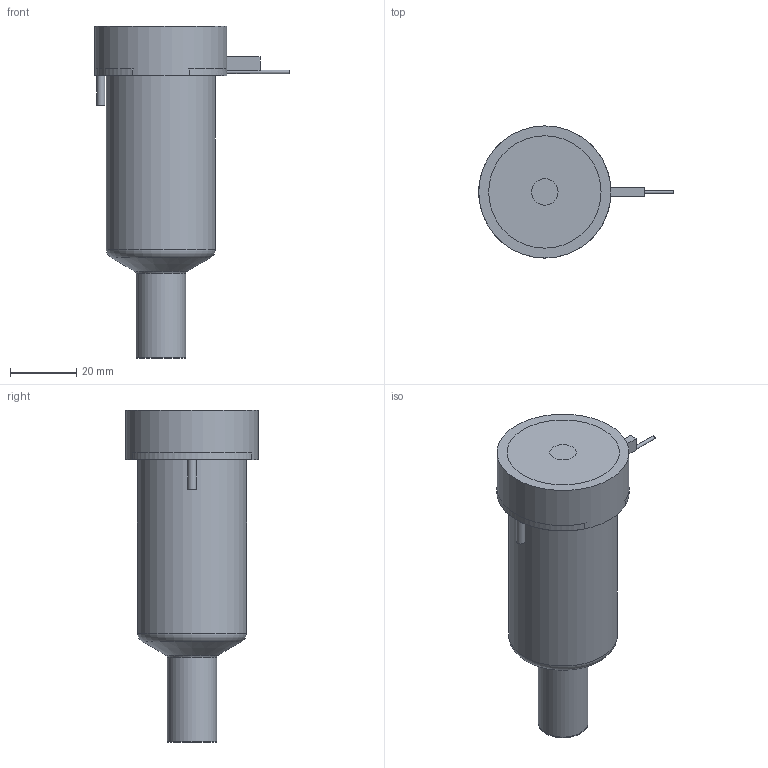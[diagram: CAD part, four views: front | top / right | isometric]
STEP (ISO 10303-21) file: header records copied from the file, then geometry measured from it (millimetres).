
FILE_DESCRIPTION(/* description */ (''),/* implementation_level */ '2;1');
FILE_NAME(/* name */ 'BXYCN19065P4F_200C_a',/* time_stamp */ '2016-02-18T16:24:49+13:00',/* author */ (''),/* organization */ (''),/* preprocessor_version */ 'ST-DEVELOPER v9',/* originating_system */ 'UGS - NX 4.0',/* authorisation */ '');
FILE_SCHEMA (('CONFIG_CONTROL_DESIGN'));
Length unit declared in the file: millimetre
Products named in the file (1): matt5E57pz60
Bounding box: 58.85 x 40 x 100.44 mm (x, y, z)
Volume: 127354.1 mm3; surface area: 23178.9 mm2
Topology: 2 solids, 2 shells, 66 faces, 148 edges, 96 vertices
Faces by surface type: plane 31, cylinder 21, torus 7, cone 5, bspline 1, sphere 1
Full cylindrical faces by diameter (mm): 1 x2, 2.5 x2, 7 x1, 8 x1, 14.61 x1, 14.995 x2, 18.3 x1, 28.6 x1, 33 x1, 40 x1
Entity records: 1929 total; most frequent: CARTESIAN_POINT 483, DIRECTION 297, ORIENTED_EDGE 232, AXIS2_PLACEMENT_3D 127, EDGE_CURVE 116, EDGE_LOOP 102, VERTEX_POINT 88, ADVANCED_FACE 66
